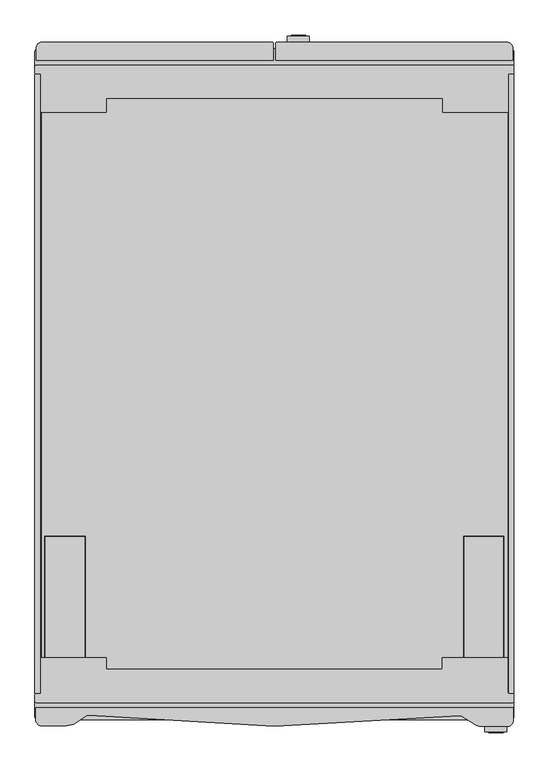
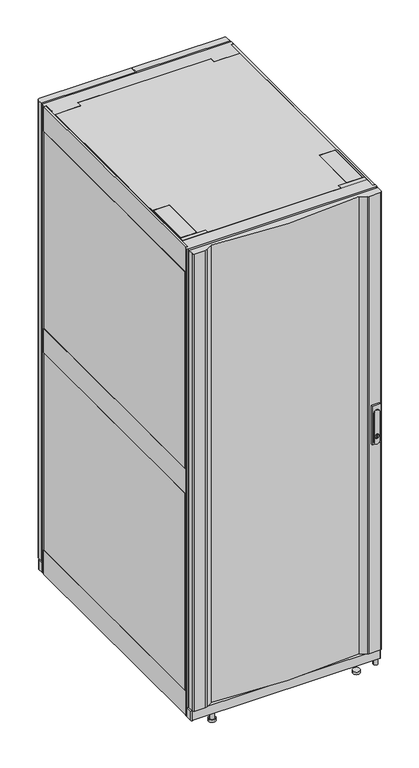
"""IFC4 building model written with IfcOpenShell, lengths in millimetres: proxy geometry, Symmetra_PX_Battery_250_500kW_Schneider_Electric_BIM_Model : SYCFXR9-9 - Symmetra PX Battery frame with 9 Battery Modules."""

from ifc_helpers import new_model, si_unit, point, frame, frame_2d, origin, origin_with_axes, place, context, project, spatial, polyline, circle_curve, trimmed, segment, composite_curve, outline, extrude, source, transform, mapped, element, save
from ifc_brep_helpers import plane_surface, cylinder_surface, advanced_brep


def electrical_equipment_e69c0ecd(model_context):
    return source(origin(), model_context, "Body", "SolidModel", [
        extrude(outline(composite_curve([segment(trimmed(circle_curve(frame_2d((965.0100104, 37.9867713)), 11.2467677), [point((965.0100104, 26.7400037))], [point((965.0100104, 49.233539))], False, "CARTESIAN"), True, "CONTINUOUS"), segment(polyline([(965.0100104, 49.233539), (1085.0100104, 49.233539)]), True, "CONTINUOUS"), segment(trimmed(circle_curve(frame_2d((1085.0100104, 37.9867713)), 11.2467677), [point((1085.0100104, 49.233539))], [point((1085.0100104, 26.7400037))], False, "CARTESIAN"), True, "CONTINUOUS"), segment(polyline([(1085.0100104, 26.7400037), (965.0100104, 26.7400037)]), True, "CONTINUOUS")], self_intersect=False), holes=[composite_curve([segment(trimmed(circle_curve(frame_2d((986.2304594, 38.0082757)), 8.4681222), [point((989.2723415, 30.1053619))], [point((989.2723415, 45.9111895))], True, "CARTESIAN"), True, "CONTINUOUS"), segment(trimmed(circle_curve(frame_2d((986.2304594, 38.0082757)), 8.4681222), [point((989.2723415, 45.9111895))], [point((983.1885772, 45.9111895))], True, "CARTESIAN"), True, "CONTINUOUS"), segment(trimmed(circle_curve(frame_2d((986.2304594, 38.0082757)), 8.4681222), [point((983.1885772, 45.9111895))], [point((983.1885772, 30.1053619))], True, "CARTESIAN"), True, "CONTINUOUS"), segment(trimmed(circle_curve(frame_2d((986.2304594, 38.0082757)), 8.4681222), [point((983.1885772, 30.1053619))], [point((989.2723415, 30.1053619))], True, "CARTESIAN"), True, "CONTINUOUS")], self_intersect=False)]), frame((0.0, 544.5, 0.0), z_axis=(0.0, 1.0, 0.0), x_axis=(0.0, 0.0, 1.0)), (0.0, 0.0, 1.0), 2.0),
        extrude(outline(composite_curve([segment(polyline([(988.2945248, 30.1053619), (984.166394, 30.1053619)]), True, "CONTINUOUS"), segment(trimmed(circle_curve(frame_2d((986.2304594, 38.0082757)), 8.1680116), [point((984.166394, 30.1053619))], [point((984.166394, 45.9111895))], False, "CARTESIAN"), True, "CONTINUOUS"), segment(polyline([(984.166394, 45.9111895), (988.2945248, 45.9111895)]), True, "CONTINUOUS"), segment(trimmed(circle_curve(frame_2d((986.2304594, 38.0082757)), 8.1680116), [point((988.2945248, 45.9111895))], [point((988.2945248, 30.1053619))], False, "CARTESIAN"), True, "CONTINUOUS")], self_intersect=False), holes=[polyline([(981.6937867, 38.0082757), (993.3981021, 38.0082757), (993.3981021, 40.4091609), (981.6937867, 40.4091609), (981.6937867, 38.0082757)])]), frame((0.0, 544.5, 0.0), z_axis=(0.0, 1.0, 0.0), x_axis=(0.0, 0.0, 1.0)), (0.0, 0.0, 1.0), 2.0),
        extrude(outline(polyline([(38.3082757, 546.5), (40.1091609, 546.5), (40.1091609, 544.5), (38.3082757, 544.5), (38.3082757, 546.5)])), frame((0.0, 0.0, 981.9937867), z_axis=(0.0, 0.0, 1.0), x_axis=(1.0, 0.0, 0.0)), (0.0, 0.0, 1.0), 11.1043154),
        extrude(outline(polyline([(20.2100056, 544.5), (55.0, 544.5), (55.0, 535.0), (20.2100056, 535.0), (20.2100056, 544.5)])), frame((0.0, 0.0, 955.0100058), z_axis=(0.0, 0.0, 1.0), x_axis=(1.0, 0.0, 0.0)), (0.0, 0.0, 1.0), 159.9999908),
        extrude(outline(polyline([(367.0, -484.3030002), (367.0, 484.7389449), (375.0, 484.7389449), (375.0, -484.3030002), (367.0, -484.3030002)])), frame((0.0, 0.0, 1888.946775), z_axis=(0.0, 0.0, 1.0), x_axis=(1.0, 0.0, 0.0)), (0.0, 0.0, 1.0), 101.9999981),
        extrude(outline(polyline([(367.0, -483.7220002), (367.0, 483.8199605), (375.0, 483.8199605), (375.0, -483.7220002), (367.0, -483.7220002)])), frame((0.0, 0.0, 1065.7405589), z_axis=(0.0, 0.0, 1.0), x_axis=(1.0, 0.0, 0.0)), (0.0, 0.0, 1.0), 822.214216),
        extrude(outline(polyline([(367.0, -484.3030002), (367.0, 484.7389449), (375.0, 484.7389449), (375.0, -484.3030002), (367.0, -484.3030002)])), frame((0.0, 0.0, 962.4467451), z_axis=(0.0, 0.0, 1.0), x_axis=(1.0, 0.0, 0.0)), (0.0, 0.0, 1.0), 102.0000055),
        extrude(outline(polyline([(367.0, -483.7220002), (367.0, 483.8199605), (375.0, 483.8199605), (375.0, -483.7220002), (367.0, -483.7220002)])), frame((0.0, 0.0, 139.2405663), z_axis=(0.0, 0.0, 1.0), x_axis=(1.0, 0.0, 0.0)), (0.0, 0.0, 1.0), 822.2141825),
        extrude(outline(polyline([(367.0, -484.3030002), (367.0, 484.7389449), (375.0, 484.7389449), (375.0, -484.3030002), (367.0, -484.3030002)])), frame((0.0, 0.0, 35.9467301), z_axis=(0.0, 0.0, 1.0), x_axis=(1.0, 0.0, 0.0)), (0.0, 0.0, 1.0), 101.9999981),
        extrude(outline(composite_curve([segment(trimmed(circle_curve(frame_2d((965.0100104, 347.0137961)), 11.2467677), [point((965.0100104, 335.7670285))], [point((965.0100104, 358.2605638))], False, "CARTESIAN"), True, "CONTINUOUS"), segment(polyline([(965.0100104, 358.2605638), (1085.0100104, 358.2605638)]), True, "CONTINUOUS"), segment(trimmed(circle_curve(frame_2d((1085.0100104, 347.0137961)), 11.2467677), [point((1085.0100104, 358.2605638))], [point((1085.0100104, 335.7670285))], False, "CARTESIAN"), True, "CONTINUOUS"), segment(polyline([(1085.0100104, 335.7670285), (965.0100104, 335.7670285)]), True, "CONTINUOUS")], self_intersect=False), holes=[composite_curve([segment(trimmed(circle_curve(frame_2d((986.2304594, 347.0353005)), 8.4681222), [point((989.2723415, 339.1323867))], [point((989.2723415, 354.9382143))], True, "CARTESIAN"), True, "CONTINUOUS"), segment(trimmed(circle_curve(frame_2d((986.2304594, 347.0353005)), 8.4681222), [point((989.2723415, 354.9382143))], [point((983.1885772, 354.9382143))], True, "CARTESIAN"), True, "CONTINUOUS"), segment(trimmed(circle_curve(frame_2d((986.2304594, 347.0353005)), 8.4681222), [point((983.1885772, 354.9382143))], [point((983.1885772, 339.1323867))], True, "CARTESIAN"), True, "CONTINUOUS"), segment(trimmed(circle_curve(frame_2d((986.2304594, 347.0353005)), 8.4681222), [point((983.1885772, 339.1323867))], [point((989.2723415, 339.1323867))], True, "CARTESIAN"), True, "CONTINUOUS")], self_intersect=False)]), frame((0.0, -546.5, 0.0), z_axis=(0.0, 1.0, 0.0), x_axis=(0.0, 0.0, 1.0)), (0.0, 0.0, 1.0), 2.0),
        extrude(outline(composite_curve([segment(polyline([(988.2945248, 339.1323867), (984.166394, 339.1323867)]), True, "CONTINUOUS"), segment(trimmed(circle_curve(frame_2d((986.2304594, 347.0353005)), 8.1680116), [point((984.166394, 339.1323867))], [point((984.166394, 354.9382143))], False, "CARTESIAN"), True, "CONTINUOUS"), segment(polyline([(984.166394, 354.9382143), (988.2945248, 354.9382143)]), True, "CONTINUOUS"), segment(trimmed(circle_curve(frame_2d((986.2304594, 347.0353005)), 8.1680116), [point((988.2945248, 354.9382143))], [point((988.2945248, 339.1323867))], False, "CARTESIAN"), True, "CONTINUOUS")], self_intersect=False), holes=[polyline([(981.6937867, 347.0353005), (993.3981021, 347.0353005), (993.3981021, 349.4361857), (981.6937867, 349.4361857), (981.6937867, 347.0353005)])]), frame((0.0, -546.5, 0.0), z_axis=(0.0, 1.0, 0.0), x_axis=(0.0, 0.0, 1.0)), (0.0, 0.0, 1.0), 2.0),
        extrude(outline(polyline([(349.1361857, -546.5), (347.3353005, -546.5), (347.3353005, -544.5), (349.1361857, -544.5), (349.1361857, -546.5)])), frame((0.0, 0.0, 981.9937867), z_axis=(0.0, 0.0, 1.0), x_axis=(1.0, 0.0, 0.0)), (0.0, 0.0, 1.0), 11.1043154),
        extrude(outline(polyline([(364.0270248, -544.5), (329.2370304, -544.5), (329.2370304, -535.0), (364.0270248, -535.0), (364.0270248, -544.5)])), frame((0.0, 0.0, 955.0100058), z_axis=(0.0, 0.0, 1.0), x_axis=(1.0, 0.0, 0.0)), (0.0, 0.0, 1.0), 159.9999908),
        extrude(outline(polyline([(-367.0, 484.7389449), (-367.0, -484.3030002), (-375.0, -484.3030002), (-375.0, 484.7389449), (-367.0, 484.7389449)])), frame((0.0, 0.0, 1888.946775), z_axis=(0.0, 0.0, 1.0), x_axis=(1.0, 0.0, 0.0)), (0.0, 0.0, 1.0), 101.9999981),
        extrude(outline(polyline([(-367.0, 483.8199605), (-367.0, -483.7220002), (-375.0, -483.7220002), (-375.0, 483.8199605), (-367.0, 483.8199605)])), frame((0.0, 0.0, 1065.7405589), z_axis=(0.0, 0.0, 1.0), x_axis=(1.0, 0.0, 0.0)), (0.0, 0.0, 1.0), 822.214216),
        extrude(outline(polyline([(-367.0, 484.7389449), (-367.0, -484.3030002), (-375.0, -484.3030002), (-375.0, 484.7389449), (-367.0, 484.7389449)])), frame((0.0, 0.0, 962.4467451), z_axis=(0.0, 0.0, 1.0), x_axis=(1.0, 0.0, 0.0)), (0.0, 0.0, 1.0), 102.0000055),
        extrude(outline(polyline([(-367.0, 483.8199605), (-367.0, -483.7220002), (-375.0, -483.7220002), (-375.0, 483.8199605), (-367.0, 483.8199605)])), frame((0.0, 0.0, 139.2405663), z_axis=(0.0, 0.0, 1.0), x_axis=(1.0, 0.0, 0.0)), (0.0, 0.0, 1.0), 822.2141825),
        extrude(outline(polyline([(-367.0, 484.7389449), (-367.0, -484.3030002), (-375.0, -484.3030002), (-375.0, 484.7389449), (-367.0, 484.7389449)])), frame((0.0, 0.0, 35.9467301), z_axis=(0.0, 0.0, 1.0), x_axis=(1.0, 0.0, 0.0)), (0.0, 0.0, 1.0), 101.9999981),
        extrude(outline(composite_curve([segment(polyline([(370.0, -525.858838), (-370.0, -525.858838)]), True, "CONTINUOUS"), segment(trimmed(circle_curve(frame_2d((-370.0, -520.858838)), 5.0), [point((-370.0, -525.858838))], [point((-375.0, -520.858838))], False, "CARTESIAN"), True, "CONTINUOUS"), segment(polyline([(-375.0, -520.858838), (-375.0, -497.6556519), (375.0, -497.6556519), (375.0, -520.858838)]), True, "CONTINUOUS"), segment(trimmed(circle_curve(frame_2d((370.0, -520.858838)), 5.0), [point((375.0, -520.858838))], [point((370.0, -525.858838))], False, "CARTESIAN"), True, "CONTINUOUS")], self_intersect=False)), frame((0.0, 0.0, 36.3), z_axis=(0.0, 0.0, 1.0), x_axis=(1.0, 0.0, 0.0)), (0.0, 0.0, 1.0), 38.1),
        extrude(outline(composite_curve([segment(trimmed(circle_curve(frame_2d((370.0, 519.921338)), 5.0), [point((370.0, 524.921338))], [point((375.0, 519.921338))], False, "CARTESIAN"), True, "CONTINUOUS"), segment(polyline([(375.0, 519.921338), (375.0, 496.7181519), (-375.0, 496.7181519), (-375.0, 519.921338)]), True, "CONTINUOUS"), segment(trimmed(circle_curve(frame_2d((-370.0, 519.921338)), 5.0), [point((-375.0, 519.921338))], [point((-370.0, 524.921338))], False, "CARTESIAN"), True, "CONTINUOUS"), segment(polyline([(-370.0, 524.921338), (370.0, 524.921338)]), True, "CONTINUOUS")], self_intersect=False)), frame((0.0, 0.0, 36.3), z_axis=(0.0, 0.0, 1.0), x_axis=(1.0, 0.0, 0.0)), (0.0, 0.0, 1.0), 38.1),
        extrude(outline(composite_curve([segment(trimmed(circle_curve(frame_2d((361.0384724, 510.7969997)), 9.05), [point((370.0884724, 510.7969997))], [point((351.9884724, 510.7969997))], False, "CARTESIAN"), True, "CONTINUOUS"), segment(trimmed(circle_curve(frame_2d((361.0384724, 510.7969997)), 9.05), [point((351.9884724, 510.7969997))], [point((370.0884724, 510.7969997))], False, "CARTESIAN"), True, "CONTINUOUS")], self_intersect=False)), frame((0.0, 0.0, 10.0), z_axis=(0.0, 0.0, 1.0), x_axis=(1.0, 0.0, 0.0)), (0.0, 0.0, 1.0), 30.0),
        extrude(outline(composite_curve([segment(trimmed(circle_curve(frame_2d((361.0384724, -511.9030003)), 9.05), [point((370.0884724, -511.9030003))], [point((351.9884724, -511.9030003))], False, "CARTESIAN"), True, "CONTINUOUS"), segment(trimmed(circle_curve(frame_2d((361.0384724, -511.9030003)), 9.05), [point((351.9884724, -511.9030003))], [point((370.0884724, -511.9030003))], False, "CARTESIAN"), True, "CONTINUOUS")], self_intersect=False)), frame((0.0, 0.0, 10.0), z_axis=(0.0, 0.0, 1.0), x_axis=(1.0, 0.0, 0.0)), (0.0, 0.0, 1.0), 30.0),
        extrude(outline(composite_curve([segment(trimmed(circle_curve(frame_2d((285.9800276, 510.7969997)), 14.0), [point((271.9800276, 510.7969997))], [point((299.9800276, 510.7969997))], False, "CARTESIAN"), True, "CONTINUOUS"), segment(trimmed(circle_curve(frame_2d((285.9800276, 510.7969997)), 14.0), [point((299.9800276, 510.7969997))], [point((271.9800276, 510.7969997))], False, "CARTESIAN"), True, "CONTINUOUS")], self_intersect=False)), origin_with_axes(), (0.0, 0.0, 1.0), 10.0),
        extrude(outline(composite_curve([segment(trimmed(circle_curve(frame_2d((285.9800276, -511.9030003)), 14.0), [point((271.9800276, -511.9030003))], [point((299.9800276, -511.9030003))], False, "CARTESIAN"), True, "CONTINUOUS"), segment(trimmed(circle_curve(frame_2d((285.9800276, -511.9030003)), 14.0), [point((299.9800276, -511.9030003))], [point((271.9800276, -511.9030003))], False, "CARTESIAN"), True, "CONTINUOUS")], self_intersect=False)), origin_with_axes(), (0.0, 0.0, 1.0), 10.0),
        extrude(outline(polyline([(-364.9249756, -424.6353665), (-364.9249756, 423.9540079), (-261.9899511, 423.9540079), (-261.9899511, 444.9399709), (261.9900703, 444.9399709), (261.9900703, 423.9540079), (365.3410287, 423.9540079), (365.3410287, -424.6353665), (261.9900703, -424.6353665), (261.9900703, -446.0459999), (-261.9899511, -446.0459999), (-261.9899511, -424.6353665), (-364.9249756, -424.6353665)]), holes=[polyline([(-122.9999065, 417.0968822), (-122.9999065, 217.0968667), (123.0000257, 217.0968667), (123.0000257, 417.0968822), (-122.9999065, 417.0968822)])]), frame((0.0, 0.0, 40.0), z_axis=(0.0, 0.0, 1.0), x_axis=(1.0, 0.0, 0.0)), (0.0, 0.0, 1.0), 5.0),
        extrude(outline(polyline([(-121.9999065, 218.0968667), (-121.9999065, 416.0968822), (122.0000257, 416.0968822), (122.0000257, 218.0968667), (-121.9999065, 218.0968667)])), frame((0.0, 0.0, 40.0), z_axis=(0.0, 0.0, 1.0), x_axis=(1.0, 0.0, 0.0)), (0.0, 0.0, 1.0), 5.0),
        advanced_brep(
        [(-299.7259724, -511.9030003, 10.0), (-271.7259724, -511.9030003, 10.0), (-276.6759724, -511.9030003, 10.0), (-294.7759724, -511.9030003, 10.0), (-299.7259724, -511.9030003, 0.0), (-271.7259724, -511.9030003, 0.0), (-294.7759724, -511.9030003, 40.0), (-276.6759724, -511.9030003, 40.0)],
        [
            (0, 1, circle_curve(frame((-285.7259724, -511.9030003, 10.0), z_axis=(0.0, 0.0, 1.0), x_axis=(1.0, 0.0, 0.0)), 14.0)),
            (1, 0, circle_curve(frame((-285.7259724, -511.9030003, 10.0), z_axis=(0.0, 0.0, 1.0), x_axis=(1.0, 0.0, 0.0)), 14.0)),
            (2, 3, circle_curve(frame((-285.7259724, -511.9030003, 10.0), z_axis=(0.0, 0.0, -1.0), x_axis=(1.0, 0.0, 0.0)), 9.05)),
            (3, 2, circle_curve(frame((-285.7259724, -511.9030003, 10.0), z_axis=(0.0, 0.0, -1.0), x_axis=(1.0, 0.0, 0.0)), 9.05)),
            (4, 5, circle_curve(frame((-285.7259724, -511.9030003, 0.0), z_axis=(0.0, 0.0, -1.0), x_axis=(1.0, 0.0, 0.0)), 14.0)),
            (5, 4, circle_curve(frame((-285.7259724, -511.9030003, 0.0), z_axis=(0.0, 0.0, -1.0), x_axis=(1.0, 0.0, 0.0)), 14.0)),
            (0, 4),
            (5, 1),
            (6, 7, circle_curve(frame((-285.7259724, -511.9030003, 40.0), z_axis=(0.0, 0.0, 1.0), x_axis=(1.0, 0.0, 0.0)), 9.05)),
            (7, 6, circle_curve(frame((-285.7259724, -511.9030003, 40.0), z_axis=(0.0, 0.0, 1.0), x_axis=(1.0, 0.0, 0.0)), 9.05)),
            (6, 3),
            (2, 7),
        ],
        [
            plane_surface(frame((-271.7259724, -511.9030003, 10.0), z_axis=(0.0, 0.0, 1.0), x_axis=(0.0, 1.0, 0.0))),
            plane_surface(frame((-271.7259724, -511.9030003, 0.0), z_axis=(0.0, 0.0, -1.0), x_axis=(0.0, -1.0, 0.0))),
            cylinder_surface(frame((-285.7259724, -511.9030003, 0.0), z_axis=(0.0, 0.0, 1.0), x_axis=(1.0, 0.0, 0.0)), 14.0),
            plane_surface(frame((-276.6759724, 510.7969997, 40.0), z_axis=(0.0, 0.0, 1.0), x_axis=(0.0, 1.0, 0.0))),
            cylinder_surface(frame((-285.7259724, -511.9030003, 0.0), z_axis=(0.0, 0.0, 1.0), x_axis=(1.0, 0.0, 0.0)), 9.05),
        ],
        [
            (0, [[1, 2], [3, 4]]),
            (1, [[5, 6]]),
            (2, [[-1, 7, -6, 8]]),
            (2, [[-2, -8, -5, -7]]),
            (3, [[9, 10]]),
            (4, [[-9, 11, -3, 12]]),
            (4, [[-10, -12, -4, -11]]),
        ],
    ),
        advanced_brep(
        [(-299.7259724, 510.7969997, 10.0), (-271.7259724, 510.7969997, 10.0), (-276.6759724, 510.7969997, 10.0), (-294.7759724, 510.7969997, 10.0), (-299.7259724, 510.7969997, 0.0), (-271.7259724, 510.7969997, 0.0), (-294.7759724, 510.7969997, 40.0), (-276.6759724, 510.7969997, 40.0)],
        [
            (0, 1, circle_curve(frame((-285.7259724, 510.7969997, 10.0), z_axis=(0.0, 0.0, 1.0), x_axis=(1.0, 0.0, 0.0)), 14.0)),
            (1, 0, circle_curve(frame((-285.7259724, 510.7969997, 10.0), z_axis=(0.0, 0.0, 1.0), x_axis=(1.0, 0.0, 0.0)), 14.0)),
            (2, 3, circle_curve(frame((-285.7259724, 510.7969997, 10.0), z_axis=(0.0, 0.0, -1.0), x_axis=(1.0, 0.0, 0.0)), 9.05)),
            (3, 2, circle_curve(frame((-285.7259724, 510.7969997, 10.0), z_axis=(0.0, 0.0, -1.0), x_axis=(1.0, 0.0, 0.0)), 9.05)),
            (4, 5, circle_curve(frame((-285.7259724, 510.7969997, 0.0), z_axis=(0.0, 0.0, -1.0), x_axis=(1.0, 0.0, 0.0)), 14.0)),
            (5, 4, circle_curve(frame((-285.7259724, 510.7969997, 0.0), z_axis=(0.0, 0.0, -1.0), x_axis=(1.0, 0.0, 0.0)), 14.0)),
            (0, 4),
            (5, 1),
            (6, 7, circle_curve(frame((-285.7259724, 510.7969997, 40.0), z_axis=(0.0, 0.0, 1.0), x_axis=(1.0, 0.0, 0.0)), 9.05)),
            (7, 6, circle_curve(frame((-285.7259724, 510.7969997, 40.0), z_axis=(0.0, 0.0, 1.0), x_axis=(1.0, 0.0, 0.0)), 9.05)),
            (6, 3),
            (2, 7),
        ],
        [
            plane_surface(frame((-271.7259724, -511.9030003, 10.0), z_axis=(0.0, 0.0, 1.0), x_axis=(0.0, 1.0, 0.0))),
            plane_surface(frame((-271.7259724, -511.9030003, 0.0), z_axis=(0.0, 0.0, -1.0), x_axis=(0.0, -1.0, 0.0))),
            cylinder_surface(frame((-285.7259724, 510.7969997, 0.0), z_axis=(0.0, 0.0, 1.0), x_axis=(1.0, 0.0, 0.0)), 14.0),
            plane_surface(frame((-276.6759724, 510.7969997, 40.0), z_axis=(0.0, 0.0, 1.0), x_axis=(0.0, 1.0, 0.0))),
            cylinder_surface(frame((-285.7259724, 510.7969997, 10.0), z_axis=(0.0, 0.0, 1.0), x_axis=(1.0, 0.0, 0.0)), 9.05),
        ],
        [
            (0, [[1, 2], [3, 4]]),
            (1, [[5, 6]]),
            (2, [[-1, 7, -6, 8]]),
            (2, [[-2, -8, -5, -7]]),
            (3, [[9, 10]]),
            (4, [[-9, 11, -3, 12]]),
            (4, [[-10, -12, -4, -11]]),
        ],
    ),
        extrude(outline(composite_curve([segment(trimmed(circle_curve(frame_2d((-460.0797469, 31.0)), 31.0), [point((-491.0797469, 31.0))], [point((-429.0797469, 31.0))], False, "CARTESIAN"), True, "CONTINUOUS"), segment(trimmed(circle_curve(frame_2d((-460.0797469, 31.0)), 31.0), [point((-429.0797469, 31.0))], [point((-491.0797469, 31.0))], False, "CARTESIAN"), True, "CONTINUOUS")], self_intersect=False)), frame((270.2400684, 0.0, 0.0), z_axis=(1.0, 0.0, 0.0), x_axis=(0.0, 1.0, 0.0)), (0.0, 0.0, 1.0), 47.0),
        extrude(outline(composite_curve([segment(trimmed(circle_curve(frame_2d((456.1065435, 31.0)), 31.0), [point((425.1065435, 31.0))], [point((487.1065435, 31.0))], False, "CARTESIAN"), True, "CONTINUOUS"), segment(trimmed(circle_curve(frame_2d((456.1065435, 31.0)), 31.0), [point((487.1065435, 31.0))], [point((425.1065435, 31.0))], False, "CARTESIAN"), True, "CONTINUOUS")], self_intersect=False)), frame((270.2400684, 0.0, 0.0), z_axis=(1.0, 0.0, 0.0), x_axis=(0.0, 1.0, 0.0)), (0.0, 0.0, 1.0), 47.0),
        extrude(outline(composite_curve([segment(trimmed(circle_curve(frame_2d((372.7190436, 496.7139543)), 2.4079842), [point((372.7190437, 499.1219386))], [point((375.1270278, 496.7139543))], False, "CARTESIAN"), True, "CONTINUOUS"), segment(polyline([(375.1270278, 496.7139543), (375.1270278, 486.9109379)]), True, "CONTINUOUS"), segment(trimmed(circle_curve(frame_2d((372.7190273, 486.9109379)), 2.4080005), [point((375.1270278, 486.9109379))], [point((372.7190273, 484.5029374))], False, "CARTESIAN"), True, "CONTINUOUS"), segment(polyline([(372.7190273, 484.5029374), (365.8795297, 484.5029374), (365.8795297, 425.5227386), (263.4984247, 425.5227386), (263.4984247, 447.1244496), (-263.4984247, 447.1244496), (-263.4984247, 425.5227386), (-365.6255007, 425.5227386), (-365.6255007, 484.5029365), (-372.4649733, 484.5029365)]), True, "CONTINUOUS"), segment(trimmed(circle_curve(frame_2d((-372.4649742, 486.9109387)), 2.4080021), [point((-372.4649733, 484.5029365))], [point((-374.8729763, 486.9109382))], False, "CARTESIAN"), True, "CONTINUOUS"), segment(polyline([(-374.8729763, 486.9109382), (-374.8729763, 496.7139374)]), True, "CONTINUOUS"), segment(trimmed(circle_curve(frame_2d((-372.4649722, 496.7139344)), 2.4080041), [point((-374.8729763, 496.7139374))], [point((-372.4649711, 499.1219386))], False, "CARTESIAN"), True, "CONTINUOUS"), segment(polyline([(-372.4649711, 499.1219386), (372.7190437, 499.1219386)]), True, "CONTINUOUS")], self_intersect=False)), frame((0.0, 0.0, 36.3), z_axis=(0.0, 0.0, 1.0), x_axis=(1.0, 0.0, 0.0)), (0.0, 0.0, 1.0), 1954.7),
        extrude(outline(composite_curve([segment(polyline([(372.7190437, -499.122001), (-372.4649711, -499.122001)]), True, "CONTINUOUS"), segment(trimmed(circle_curve(frame_2d((-372.4649722, -496.7139968)), 2.4080041), [point((-372.4649711, -499.122001))], [point((-374.8729763, -496.7139998))], False, "CARTESIAN"), True, "CONTINUOUS"), segment(polyline([(-374.8729763, -496.7139998), (-374.8729763, -486.9110006)]), True, "CONTINUOUS"), segment(trimmed(circle_curve(frame_2d((-372.4649742, -486.9110011)), 2.4080021), [point((-374.8729763, -486.9110006))], [point((-372.4649733, -484.5029989))], False, "CARTESIAN"), True, "CONTINUOUS"), segment(polyline([(-372.4649733, -484.5029989), (-365.6255007, -484.5029989), (-365.6255007, -429.0797469), (-263.1600423, -429.0797469), (-263.1600423, -446.5904502), (263.1600423, -446.5904502), (263.1600423, -429.0797469), (365.6255007, -429.0797469), (365.6255007, -484.5029998), (372.7190273, -484.5029998)]), True, "CONTINUOUS"), segment(trimmed(circle_curve(frame_2d((372.7190273, -486.9110003)), 2.4080005), [point((372.7190273, -484.5029998))], [point((375.1270278, -486.9110003))], False, "CARTESIAN"), True, "CONTINUOUS"), segment(polyline([(375.1270278, -486.9110003), (375.1270278, -496.7140167)]), True, "CONTINUOUS"), segment(trimmed(circle_curve(frame_2d((372.7190436, -496.7140167)), 2.4079842), [point((375.1270278, -496.7140167))], [point((372.7190437, -499.122001))], False, "CARTESIAN"), True, "CONTINUOUS")], self_intersect=False)), frame((0.0, 0.0, 36.3), z_axis=(0.0, 0.0, 1.0), x_axis=(1.0, 0.0, 0.0)), (0.0, 0.0, 1.0), 1954.7),
        extrude(outline(polyline([(365.5825286, 449.599961), (365.5825286, -446.3030015), (-363.9999642, -446.3030015), (-363.9999642, 449.599961), (365.5825286, 449.599961)]), holes=[polyline([(-296.309439, -238.6171179), (-359.5751363, -238.6171179), (-359.5751363, -429.0992143), (-296.309439, -429.0992143), (-296.309439, -238.6171179)]), polyline([(296.309439, -238.6171179), (296.309439, -429.0992143), (359.5751363, -429.0992143), (359.5751363, -238.6171179), (296.309439, -238.6171179)])]), frame((0.0, 0.0, 1990.0), z_axis=(0.0, 0.0, 1.0), x_axis=(1.0, 0.0, 0.0)), (0.0, 0.0, 1.0), 1.0),
        extrude(outline(polyline([(-297.309439, -239.6171179), (-297.309439, -428.0992143), (-358.5751363, -428.0992143), (-358.5751363, -239.6171179), (-297.309439, -239.6171179)])), frame((0.0, 0.0, 1990.0), z_axis=(0.0, 0.0, 1.0), x_axis=(1.0, 0.0, 0.0)), (0.0, 0.0, 1.0), 1.0),
        extrude(outline(polyline([(297.309439, -239.6171179), (358.5751363, -239.6171179), (358.5751363, -428.0992143), (297.309439, -428.0992143), (297.309439, -239.6171179)])), frame((0.0, 0.0, 1990.0), z_axis=(0.0, 0.0, 1.0), x_axis=(1.0, 0.0, 0.0)), (0.0, 0.0, 1.0), 1.0),
        extrude(outline(composite_curve([segment(polyline([(374.3113757, -506.9500011), (374.3113757, -526.586867)]), True, "CONTINUOUS"), segment(trimmed(circle_curve(frame_2d((364.4570881, -526.586867)), 9.8542876), [point((374.3113757, -526.586867))], [point((365.5491377, -536.3804573))], False, "CARTESIAN"), True, "CONTINUOUS"), segment(polyline([(365.5491377, -536.3804573), (321.0323955, -536.3804573)]), True, "CONTINUOUS"), segment(trimmed(circle_curve(frame_2d((327.2468179, -509.0515709)), 28.0265424), [point((321.0323955, -536.3804573))], [point((316.2957449, -534.8500414))], False, "CARTESIAN"), True, "CONTINUOUS"), segment(trimmed(circle_curve(frame_2d((596.8227055, -63.7435976)), 548.3034352), [point((316.2957449, -534.8500414))], [point((293.3565385, -520.4108096))], False, "CARTESIAN"), True, "CONTINUOUS"), segment(trimmed(circle_curve(frame_2d((291.1750641, -524.7647416)), 4.8698619), [point((293.3565385, -520.4108096))], [point((290.6203219, -519.9265792))], True, "CARTESIAN"), True, "CONTINUOUS"), segment(trimmed(circle_curve(frame_2d((5.833199, 1963.8332569)), 2500.0333255), [point((290.6203219, -519.9265792))], [point((-290.5412494, -518.5705811))], False, "CARTESIAN"), True, "CONTINUOUS"), segment(trimmed(circle_curve(frame_2d((-290.7977469, -523.4336834)), 4.8698619), [point((-290.5412494, -518.5705811))], [point((-292.9792214, -519.0797514))], True, "CARTESIAN"), True, "CONTINUOUS"), segment(trimmed(circle_curve(frame_2d((-596.8085678, -62.9100845)), 548.0903545), [point((-292.9792214, -519.0797514))], [point((-314.4293763, -532.6600488))], False, "CARTESIAN"), True, "CONTINUOUS"), segment(trimmed(circle_curve(frame_2d((-325.8142298, -508.3410428)), 26.8519821), [point((-314.4293763, -532.6600488))], [point((-325.879556, -535.1929454))], False, "CARTESIAN"), True, "CONTINUOUS"), segment(polyline([(-325.879556, -535.1929454), (-367.0159383, -535.1929454)]), True, "CONTINUOUS"), segment(trimmed(circle_curve(frame_2d((-363.7973966, -526.0351994)), 9.7068699), [point((-367.0159383, -535.1929454))], [point((-373.5042665, -526.0351994))], False, "CARTESIAN"), True, "CONTINUOUS"), segment(polyline([(-373.5042665, -526.0351994), (-373.5042665, -506.9500011), (374.3113757, -506.9500011)]), True, "CONTINUOUS")], self_intersect=False)), frame((0.0, 0.0, 80.3), z_axis=(0.0, 0.0, 1.0), x_axis=(1.0, 0.0, 0.0)), (0.0, 0.0, 1.0), 1910.7),
        extrude(outline(composite_curve([segment(polyline([(-373.114, 506.949935), (-373.114, 525.7859664)]), True, "CONTINUOUS"), segment(trimmed(circle_curve(frame_2d((-363.8999664, 525.7859664)), 9.2140336), [point((-373.114, 525.7859664))], [point((-363.8999664, 535.0))], False, "CARTESIAN"), True, "CONTINUOUS"), segment(polyline([(-363.8999664, 535.0), (-362.9000288, 535.0), (-3.5899758, 535.0)]), True, "CONTINUOUS"), segment(trimmed(circle_curve(frame_2d((-3.5899758, 532.8969991)), 2.1030009), [point((-3.5899758, 535.0))], [point((-1.486975, 532.8969991))], False, "CARTESIAN"), True, "CONTINUOUS"), segment(polyline([(-1.486975, 532.8969991), (-1.486975, 506.949935), (-373.114, 506.949935)]), True, "CONTINUOUS")], self_intersect=False)), frame((0.0, 0.0, 80.3), z_axis=(0.0, 0.0, 1.0), x_axis=(1.0, 0.0, 0.0)), (0.0, 0.0, 1.0), 1910.7),
        extrude(outline(composite_curve([segment(polyline([(373.114, 506.949935), (1.8397689, 506.949935), (1.8397689, 532.8969991)]), True, "CONTINUOUS"), segment(trimmed(circle_curve(frame_2d((3.9427698, 532.8969991)), 2.1030009), [point((1.8397689, 532.8969991))], [point((3.9427698, 535.0))], False, "CARTESIAN"), True, "CONTINUOUS"), segment(polyline([(3.9427698, 535.0), (362.9000288, 535.0), (363.8999664, 535.0)]), True, "CONTINUOUS"), segment(trimmed(circle_curve(frame_2d((363.8999664, 525.7859664)), 9.2140336), [point((363.8999664, 535.0))], [point((373.114, 525.7859664))], False, "CARTESIAN"), True, "CONTINUOUS"), segment(polyline([(373.114, 525.7859664), (373.114, 506.949935)]), True, "CONTINUOUS")], self_intersect=False)), frame((0.0, 0.0, 80.3), z_axis=(0.0, 0.0, 1.0), x_axis=(1.0, 0.0, 0.0)), (0.0, 0.0, 1.0), 1910.7),
        extrude(outline(composite_curve([segment(trimmed(circle_curve(frame_2d((-460.0797469, 31.0)), 31.0), [point((-491.0797469, 31.0))], [point((-429.0797469, 31.0))], False, "CARTESIAN"), True, "CONTINUOUS"), segment(trimmed(circle_curve(frame_2d((-460.0797469, 31.0)), 31.0), [point((-429.0797469, 31.0))], [point((-491.0797469, 31.0))], False, "CARTESIAN"), True, "CONTINUOUS")], self_intersect=False)), frame((-317.2399492, 0.0, 0.0), z_axis=(1.0, 0.0, 0.0), x_axis=(0.0, 1.0, 0.0)), (0.0, 0.0, 1.0), 47.0),
        extrude(outline(composite_curve([segment(trimmed(circle_curve(frame_2d((456.1065435, 31.0)), 31.0), [point((425.1065435, 31.0))], [point((487.1065435, 31.0))], False, "CARTESIAN"), True, "CONTINUOUS"), segment(trimmed(circle_curve(frame_2d((456.1065435, 31.0)), 31.0), [point((487.1065435, 31.0))], [point((425.1065435, 31.0))], False, "CARTESIAN"), True, "CONTINUOUS")], self_intersect=False)), frame((-317.2399492, 0.0, 0.0), z_axis=(1.0, 0.0, 0.0), x_axis=(0.0, 1.0, 0.0)), (0.0, 0.0, 1.0), 47.0),
    ])


if __name__ == "__main__":
    model = new_model("IFC4")
    model_context = context("Model", 3, world=origin())
    ifc_project = project(units=[si_unit("LENGTHUNIT", "METRE", prefix="MILLI")], contexts=[model_context])
    site = spatial("IfcSite", under=ifc_project)
    building = spatial("IfcBuilding", under=site)
    placement = place(None, origin())
    electrical_equipment_shape = electrical_equipment_e69c0ecd(model_context)
    element("IfcBuildingElementProxy", 1, Name="Symmetra_PX_Battery_250_500kW_Schneider_Electric_BIM_Model : SYCFXR9-9 - Symmetra PX Battery frame with 9 Battery Modules", ObjectType="Symmetra_PX_Battery_250_500kW_Schneider_Electric_BIM_Model : SYCFXR9-9 - Symmetra PX Battery frame with 9 Battery Modules", at=placement, inside=building, context=model_context, shape_type="MappedRepresentation", body=[
        mapped(electrical_equipment_shape, transform((0.0, 0.0, 0.0), x_axis=(1.0, 0.0, 0.0), y_axis=(0.0, 1.0, 0.0), z_axis=(0.0, 0.0, 1.0))),
    ])
    save(model, "model.ifc")
